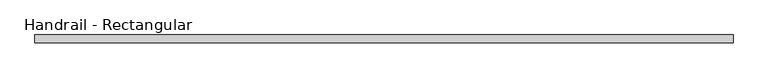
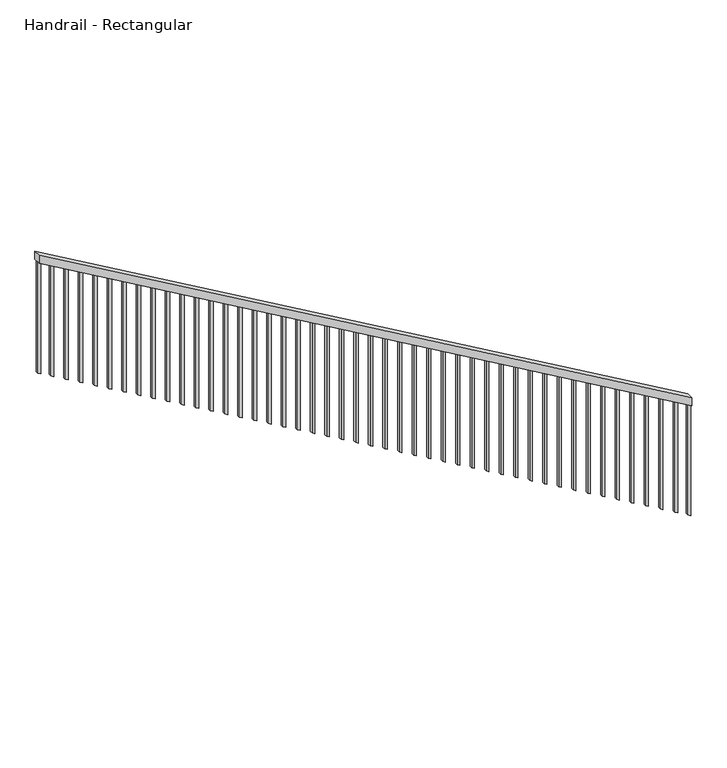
"""IFC4 building model written with IfcOpenShell, lengths in millimetres: railing geometry, Handrail - Rectangular."""

from ifc_helpers import new_model, si_unit, frame, origin, place, context, project, spatial, polyline, outline, extrude, source, transform, mapped, element, save


def handrail_rectangular_904b3012(model_context):
    return source(origin(), model_context, "Body", "SweptSolid", [
        extrude(outline(polyline([(3332.1512922, 49008.9536092), (3390.9, 49008.9536092), (6046.1432278, 44437.9019766), (5987.39452, 44437.9019766), (3332.1512922, 49008.9536092)])), frame((0.0, 3813.1929816, 0.0), z_axis=(0.0, 1.0, 0.0), x_axis=(0.0, 0.0, 1.0)), (0.0, 0.0, 1.0), 50.8),
        extrude(outline(polyline([(5934.4133762, 44529.0286092), (5111.5675218, 44529.0286092), (5100.5062315, 44548.0786092), (5923.3520859, 44548.0786092), (5934.4133762, 44529.0286092)])), frame((0.0, 3829.0679816, 0.0), z_axis=(0.0, 1.0, 0.0), x_axis=(0.0, 0.0, 1.0)), (0.0, 0.0, 1.0), 19.05),
        extrude(outline(polyline([(5875.3957292, 44630.6286092), (5052.5498748, 44630.6286092), (5041.4885845, 44649.6786092), (5864.3344388, 44649.6786092), (5875.3957292, 44630.6286092)])), frame((0.0, 3829.0679816, 0.0), z_axis=(0.0, 1.0, 0.0), x_axis=(0.0, 0.0, 1.0)), (0.0, 0.0, 1.0), 19.05),
        extrude(outline(polyline([(5816.3780821, 44732.2286092), (4993.5322277, 44732.2286092), (4982.4709374, 44751.2786092), (5805.3167918, 44751.2786092), (5816.3780821, 44732.2286092)])), frame((0.0, 3829.0679816, 0.0), z_axis=(0.0, 1.0, 0.0), x_axis=(0.0, 0.0, 1.0)), (0.0, 0.0, 1.0), 19.05),
        extrude(outline(polyline([(5757.3604351, 44833.8286092), (4934.5145807, 44833.8286092), (4923.4532903, 44852.8786092), (5746.2991447, 44852.8786092), (5757.3604351, 44833.8286092)])), frame((0.0, 3829.0679816, 0.0), z_axis=(0.0, 1.0, 0.0), x_axis=(0.0, 0.0, 1.0)), (0.0, 0.0, 1.0), 19.05),
        extrude(outline(polyline([(5698.342788, 44935.4286092), (4875.4969336, 44935.4286092), (4864.4356433, 44954.4786092), (5687.2814977, 44954.4786092), (5698.342788, 44935.4286092)])), frame((0.0, 3829.0679816, 0.0), z_axis=(0.0, 1.0, 0.0), x_axis=(0.0, 0.0, 1.0)), (0.0, 0.0, 1.0), 19.05),
        extrude(outline(polyline([(5639.3251409, 45037.0286092), (4816.4792865, 45037.0286092), (4805.4179962, 45056.0786092), (5628.2638506, 45056.0786092), (5639.3251409, 45037.0286092)])), frame((0.0, 3829.0679816, 0.0), z_axis=(0.0, 1.0, 0.0), x_axis=(0.0, 0.0, 1.0)), (0.0, 0.0, 1.0), 19.05),
        extrude(outline(polyline([(5580.3074939, 45138.6286092), (4757.4616395, 45138.6286092), (4746.4003492, 45157.6786092), (5569.2462036, 45157.6786092), (5580.3074939, 45138.6286092)])), frame((0.0, 3829.0679816, 0.0), z_axis=(0.0, 1.0, 0.0), x_axis=(0.0, 0.0, 1.0)), (0.0, 0.0, 1.0), 19.05),
        extrude(outline(polyline([(5521.2898468, 45240.2286092), (4698.4439924, 45240.2286092), (4687.3827021, 45259.2786092), (5510.2285565, 45259.2786092), (5521.2898468, 45240.2286092)])), frame((0.0, 3829.0679816, 0.0), z_axis=(0.0, 1.0, 0.0), x_axis=(0.0, 0.0, 1.0)), (0.0, 0.0, 1.0), 19.05),
        extrude(outline(polyline([(5462.2721998, 45341.8286092), (4639.4263454, 45341.8286092), (4628.365055, 45360.8786092), (5451.2109094, 45360.8786092), (5462.2721998, 45341.8286092)])), frame((0.0, 3829.0679816, 0.0), z_axis=(0.0, 1.0, 0.0), x_axis=(0.0, 0.0, 1.0)), (0.0, 0.0, 1.0), 19.05),
        extrude(outline(polyline([(5403.2545527, 45443.4286092), (4580.4086983, 45443.4286092), (4569.347408, 45462.4786092), (5392.1932624, 45462.4786092), (5403.2545527, 45443.4286092)])), frame((0.0, 3829.0679816, 0.0), z_axis=(0.0, 1.0, 0.0), x_axis=(0.0, 0.0, 1.0)), (0.0, 0.0, 1.0), 19.05),
        extrude(outline(polyline([(5344.2369056, 45545.0286092), (4521.3910512, 45545.0286092), (4510.3297609, 45564.0786092), (5333.1756153, 45564.0786092), (5344.2369056, 45545.0286092)])), frame((0.0, 3829.0679816, 0.0), z_axis=(0.0, 1.0, 0.0), x_axis=(0.0, 0.0, 1.0)), (0.0, 0.0, 1.0), 19.05),
        extrude(outline(polyline([(5285.2192586, 45646.6286092), (4462.3734042, 45646.6286092), (4451.3121139, 45665.6786092), (5274.1579683, 45665.6786092), (5285.2192586, 45646.6286092)])), frame((0.0, 3829.0679816, 0.0), z_axis=(0.0, 1.0, 0.0), x_axis=(0.0, 0.0, 1.0)), (0.0, 0.0, 1.0), 19.05),
        extrude(outline(polyline([(5226.2016115, 45748.2286092), (4403.3557571, 45748.2286092), (4392.2944668, 45767.2786092), (5215.1403212, 45767.2786092), (5226.2016115, 45748.2286092)])), frame((0.0, 3829.0679816, 0.0), z_axis=(0.0, 1.0, 0.0), x_axis=(0.0, 0.0, 1.0)), (0.0, 0.0, 1.0), 19.05),
        extrude(outline(polyline([(5167.1839645, 45849.8286092), (4344.3381101, 45849.8286092), (4333.2768197, 45868.8786092), (5156.1226741, 45868.8786092), (5167.1839645, 45849.8286092)])), frame((0.0, 3829.0679816, 0.0), z_axis=(0.0, 1.0, 0.0), x_axis=(0.0, 0.0, 1.0)), (0.0, 0.0, 1.0), 19.05),
        extrude(outline(polyline([(5108.1663174, 45951.4286092), (4285.320463, 45951.4286092), (4274.2591727, 45970.4786092), (5097.1050271, 45970.4786092), (5108.1663174, 45951.4286092)])), frame((0.0, 3829.0679816, 0.0), z_axis=(0.0, 1.0, 0.0), x_axis=(0.0, 0.0, 1.0)), (0.0, 0.0, 1.0), 19.05),
        extrude(outline(polyline([(5049.1486703, 46053.0286092), (4226.302816, 46053.0286092), (4215.2415256, 46072.0786092), (5038.08738, 46072.0786092), (5049.1486703, 46053.0286092)])), frame((0.0, 3829.0679816, 0.0), z_axis=(0.0, 1.0, 0.0), x_axis=(0.0, 0.0, 1.0)), (0.0, 0.0, 1.0), 19.05),
        extrude(outline(polyline([(4990.1310233, 46154.6286092), (4167.2851689, 46154.6286092), (4156.2238786, 46173.6786092), (4979.069733, 46173.6786092), (4990.1310233, 46154.6286092)])), frame((0.0, 3829.0679816, 0.0), z_axis=(0.0, 1.0, 0.0), x_axis=(0.0, 0.0, 1.0)), (0.0, 0.0, 1.0), 19.05),
        extrude(outline(polyline([(4931.1133762, 46256.2286092), (4108.2675218, 46256.2286092), (4097.2062315, 46275.2786092), (4920.0520859, 46275.2786092), (4931.1133762, 46256.2286092)])), frame((0.0, 3829.0679816, 0.0), z_axis=(0.0, 1.0, 0.0), x_axis=(0.0, 0.0, 1.0)), (0.0, 0.0, 1.0), 19.05),
        extrude(outline(polyline([(4872.0957292, 46357.8286092), (4049.2498748, 46357.8286092), (4038.1885845, 46376.8786092), (4861.0344388, 46376.8786092), (4872.0957292, 46357.8286092)])), frame((0.0, 3829.0679816, 0.0), z_axis=(0.0, 1.0, 0.0), x_axis=(0.0, 0.0, 1.0)), (0.0, 0.0, 1.0), 19.05),
        extrude(outline(polyline([(4813.0780821, 46459.4286092), (3990.2322277, 46459.4286092), (3979.1709374, 46478.4786092), (4802.0167918, 46478.4786092), (4813.0780821, 46459.4286092)])), frame((0.0, 3829.0679816, 0.0), z_axis=(0.0, 1.0, 0.0), x_axis=(0.0, 0.0, 1.0)), (0.0, 0.0, 1.0), 19.05),
        extrude(outline(polyline([(4754.0604351, 46561.0286092), (3931.2145807, 46561.0286092), (3920.1532903, 46580.0786092), (4742.9991447, 46580.0786092), (4754.0604351, 46561.0286092)])), frame((0.0, 3829.0679816, 0.0), z_axis=(0.0, 1.0, 0.0), x_axis=(0.0, 0.0, 1.0)), (0.0, 0.0, 1.0), 19.05),
        extrude(outline(polyline([(4695.042788, 46662.6286092), (3872.1969336, 46662.6286092), (3861.1356433, 46681.6786092), (4683.9814977, 46681.6786092), (4695.042788, 46662.6286092)])), frame((0.0, 3829.0679816, 0.0), z_axis=(0.0, 1.0, 0.0), x_axis=(0.0, 0.0, 1.0)), (0.0, 0.0, 1.0), 19.05),
        extrude(outline(polyline([(4636.0251409, 46764.2286092), (3813.1792865, 46764.2286092), (3802.1179962, 46783.2786092), (4624.9638506, 46783.2786092), (4636.0251409, 46764.2286092)])), frame((0.0, 3829.0679816, 0.0), z_axis=(0.0, 1.0, 0.0), x_axis=(0.0, 0.0, 1.0)), (0.0, 0.0, 1.0), 19.05),
        extrude(outline(polyline([(4577.0074939, 46865.8286092), (3754.1616395, 46865.8286092), (3743.1003492, 46884.8786092), (4565.9462036, 46884.8786092), (4577.0074939, 46865.8286092)])), frame((0.0, 3829.0679816, 0.0), z_axis=(0.0, 1.0, 0.0), x_axis=(0.0, 0.0, 1.0)), (0.0, 0.0, 1.0), 19.05),
        extrude(outline(polyline([(4517.9898468, 46967.4286092), (3695.1439924, 46967.4286092), (3684.0827021, 46986.4786092), (4506.9285565, 46986.4786092), (4517.9898468, 46967.4286092)])), frame((0.0, 3829.0679816, 0.0), z_axis=(0.0, 1.0, 0.0), x_axis=(0.0, 0.0, 1.0)), (0.0, 0.0, 1.0), 19.05),
        extrude(outline(polyline([(4458.9721998, 47069.0286092), (3636.1263454, 47069.0286092), (3625.065055, 47088.0786092), (4447.9109094, 47088.0786092), (4458.9721998, 47069.0286092)])), frame((0.0, 3829.0679816, 0.0), z_axis=(0.0, 1.0, 0.0), x_axis=(0.0, 0.0, 1.0)), (0.0, 0.0, 1.0), 19.05),
        extrude(outline(polyline([(4399.9545527, 47170.6286092), (3577.1086983, 47170.6286092), (3566.047408, 47189.6786092), (4388.8932624, 47189.6786092), (4399.9545527, 47170.6286092)])), frame((0.0, 3829.0679816, 0.0), z_axis=(0.0, 1.0, 0.0), x_axis=(0.0, 0.0, 1.0)), (0.0, 0.0, 1.0), 19.05),
        extrude(outline(polyline([(4340.9369056, 47272.2286092), (3518.0910512, 47272.2286092), (3507.0297609, 47291.2786092), (4329.8756153, 47291.2786092), (4340.9369056, 47272.2286092)])), frame((0.0, 3829.0679816, 0.0), z_axis=(0.0, 1.0, 0.0), x_axis=(0.0, 0.0, 1.0)), (0.0, 0.0, 1.0), 19.05),
        extrude(outline(polyline([(4281.9192586, 47373.8286092), (3459.0734042, 47373.8286092), (3448.0121139, 47392.8786092), (4270.8579683, 47392.8786092), (4281.9192586, 47373.8286092)])), frame((0.0, 3829.0679816, 0.0), z_axis=(0.0, 1.0, 0.0), x_axis=(0.0, 0.0, 1.0)), (0.0, 0.0, 1.0), 19.05),
        extrude(outline(polyline([(4222.9016115, 47475.4286092), (3400.0557571, 47475.4286092), (3388.9944668, 47494.4786092), (4211.8403212, 47494.4786092), (4222.9016115, 47475.4286092)])), frame((0.0, 3829.0679816, 0.0), z_axis=(0.0, 1.0, 0.0), x_axis=(0.0, 0.0, 1.0)), (0.0, 0.0, 1.0), 19.05),
        extrude(outline(polyline([(4163.8839645, 47577.0286092), (3341.0381101, 47577.0286092), (3329.9768197, 47596.0786092), (4152.8226741, 47596.0786092), (4163.8839645, 47577.0286092)])), frame((0.0, 3829.0679816, 0.0), z_axis=(0.0, 1.0, 0.0), x_axis=(0.0, 0.0, 1.0)), (0.0, 0.0, 1.0), 19.05),
        extrude(outline(polyline([(4104.8663174, 47678.6286092), (3282.020463, 47678.6286092), (3270.9591727, 47697.6786092), (4093.8050271, 47697.6786092), (4104.8663174, 47678.6286092)])), frame((0.0, 3829.0679816, 0.0), z_axis=(0.0, 1.0, 0.0), x_axis=(0.0, 0.0, 1.0)), (0.0, 0.0, 1.0), 19.05),
        extrude(outline(polyline([(4045.8486703, 47780.2286092), (3223.002816, 47780.2286092), (3211.9415256, 47799.2786092), (4034.78738, 47799.2786092), (4045.8486703, 47780.2286092)])), frame((0.0, 3829.0679816, 0.0), z_axis=(0.0, 1.0, 0.0), x_axis=(0.0, 0.0, 1.0)), (0.0, 0.0, 1.0), 19.05),
        extrude(outline(polyline([(3986.8310233, 47881.8286092), (3163.9851689, 47881.8286092), (3152.9238786, 47900.8786092), (3975.769733, 47900.8786092), (3986.8310233, 47881.8286092)])), frame((0.0, 3829.0679816, 0.0), z_axis=(0.0, 1.0, 0.0), x_axis=(0.0, 0.0, 1.0)), (0.0, 0.0, 1.0), 19.05),
        extrude(outline(polyline([(3927.8133762, 47983.4286092), (3104.9675218, 47983.4286092), (3093.9062315, 48002.4786092), (3916.7520859, 48002.4786092), (3927.8133762, 47983.4286092)])), frame((0.0, 3829.0679816, 0.0), z_axis=(0.0, 1.0, 0.0), x_axis=(0.0, 0.0, 1.0)), (0.0, 0.0, 1.0), 19.05),
        extrude(outline(polyline([(3868.7957292, 48085.0286092), (3045.9498748, 48085.0286092), (3034.8885845, 48104.0786092), (3857.7344388, 48104.0786092), (3868.7957292, 48085.0286092)])), frame((0.0, 3829.0679816, 0.0), z_axis=(0.0, 1.0, 0.0), x_axis=(0.0, 0.0, 1.0)), (0.0, 0.0, 1.0), 19.05),
        extrude(outline(polyline([(3809.7780821, 48186.6286092), (2986.9322277, 48186.6286092), (2975.8709374, 48205.6786092), (3798.7167918, 48205.6786092), (3809.7780821, 48186.6286092)])), frame((0.0, 3829.0679816, 0.0), z_axis=(0.0, 1.0, 0.0), x_axis=(0.0, 0.0, 1.0)), (0.0, 0.0, 1.0), 19.05),
        extrude(outline(polyline([(3750.7604351, 48288.2286092), (2927.9145807, 48288.2286092), (2916.8532903, 48307.2786092), (3739.6991447, 48307.2786092), (3750.7604351, 48288.2286092)])), frame((0.0, 3829.0679816, 0.0), z_axis=(0.0, 1.0, 0.0), x_axis=(0.0, 0.0, 1.0)), (0.0, 0.0, 1.0), 19.05),
        extrude(outline(polyline([(3691.742788, 48389.8286092), (2868.8969336, 48389.8286092), (2857.8356433, 48408.8786092), (3680.6814977, 48408.8786092), (3691.742788, 48389.8286092)])), frame((0.0, 3829.0679816, 0.0), z_axis=(0.0, 1.0, 0.0), x_axis=(0.0, 0.0, 1.0)), (0.0, 0.0, 1.0), 19.05),
        extrude(outline(polyline([(3632.7251409, 48491.4286092), (2809.8792865, 48491.4286092), (2798.8179962, 48510.4786092), (3621.6638506, 48510.4786092), (3632.7251409, 48491.4286092)])), frame((0.0, 3829.0679816, 0.0), z_axis=(0.0, 1.0, 0.0), x_axis=(0.0, 0.0, 1.0)), (0.0, 0.0, 1.0), 19.05),
        extrude(outline(polyline([(3573.7074939, 48593.0286092), (2750.8616395, 48593.0286092), (2739.8003492, 48612.0786092), (3562.6462036, 48612.0786092), (3573.7074939, 48593.0286092)])), frame((0.0, 3829.0679816, 0.0), z_axis=(0.0, 1.0, 0.0), x_axis=(0.0, 0.0, 1.0)), (0.0, 0.0, 1.0), 19.05),
        extrude(outline(polyline([(3514.6898468, 48694.6286092), (2691.8439924, 48694.6286092), (2680.7827021, 48713.6786092), (3503.6285565, 48713.6786092), (3514.6898468, 48694.6286092)])), frame((0.0, 3829.0679816, 0.0), z_axis=(0.0, 1.0, 0.0), x_axis=(0.0, 0.0, 1.0)), (0.0, 0.0, 1.0), 19.05),
        extrude(outline(polyline([(3455.6721998, 48796.2286092), (2632.8263454, 48796.2286092), (2621.765055, 48815.2786092), (3444.6109094, 48815.2786092), (3455.6721998, 48796.2286092)])), frame((0.0, 3829.0679816, 0.0), z_axis=(0.0, 1.0, 0.0), x_axis=(0.0, 0.0, 1.0)), (0.0, 0.0, 1.0), 19.05),
        extrude(outline(polyline([(3396.6545527, 48897.8286092), (2573.8086983, 48897.8286092), (2562.747408, 48916.8786092), (3385.5932624, 48916.8786092), (3396.6545527, 48897.8286092)])), frame((0.0, 3829.0679816, 0.0), z_axis=(0.0, 1.0, 0.0), x_axis=(0.0, 0.0, 1.0)), (0.0, 0.0, 1.0), 19.05),
        extrude(outline(polyline([(5987.347229, 44437.9019766), (5164.5013746, 44437.9019766), (5153.4400843, 44456.9519766), (5976.2859387, 44456.9519766), (5987.347229, 44437.9019766)])), frame((0.0, 3829.0679816, 0.0), z_axis=(0.0, 1.0, 0.0), x_axis=(0.0, 0.0, 1.0)), (0.0, 0.0, 1.0), 19.05),
        extrude(outline(polyline([(3343.1698101, 48989.9036092), (2520.3239557, 48989.9036092), (2509.2626653, 49008.9536092), (3332.1085197, 49008.9536092), (3343.1698101, 48989.9036092)])), frame((0.0, 3829.0679816, 0.0), z_axis=(0.0, 1.0, 0.0), x_axis=(0.0, 0.0, 1.0)), (0.0, 0.0, 1.0), 19.05),
    ])


if __name__ == "__main__":
    model = new_model("IFC4")
    model_context = context("Model", 3, world=origin())
    ifc_project = project(units=[si_unit("LENGTHUNIT", "METRE", prefix="MILLI")], contexts=[model_context])
    site = spatial("IfcSite", under=ifc_project)
    building = spatial("IfcBuilding", under=site)
    placement = place(None, origin())
    handrail_rectangular_shape = handrail_rectangular_904b3012(model_context)
    element("IfcRailing", 1, ObjectType="Handrail - Rectangular", at=placement, inside=building, context=model_context, shape_type="MappedRepresentation", body=[
        mapped(handrail_rectangular_shape, transform((0.0, 0.0, 0.0), x_axis=(1.0, 0.0, 0.0), y_axis=(0.0, 1.0, 0.0), z_axis=(0.0, 0.0, 1.0))),
    ])
    save(model, "model.ifc")
